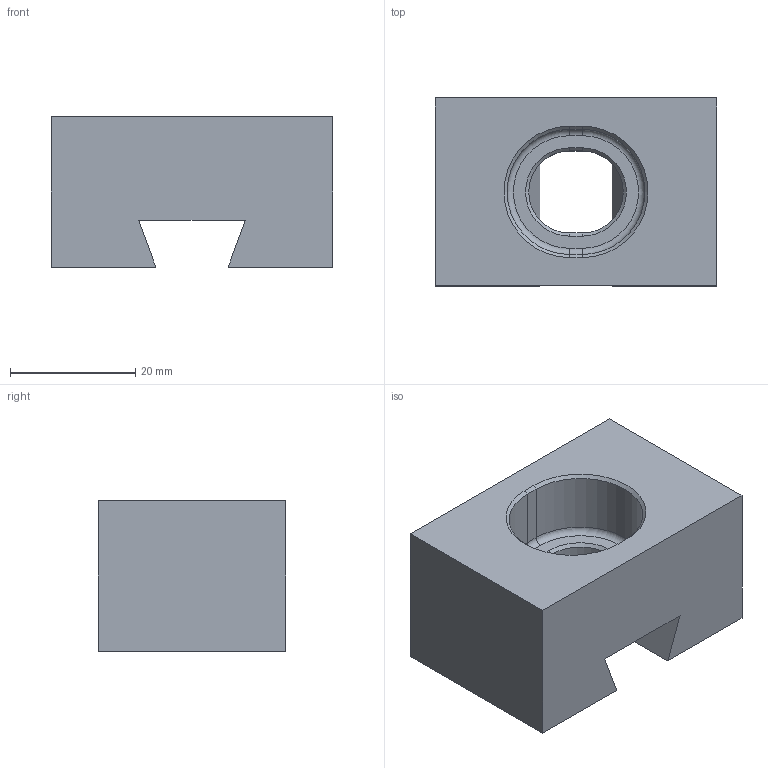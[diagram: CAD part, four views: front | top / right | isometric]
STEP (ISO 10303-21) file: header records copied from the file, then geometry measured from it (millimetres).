
FILE_DESCRIPTION((''),'2;1');
FILE_NAME('FG_WH_WEDCL_00DC2NP001','2026-06-05T10:46:29',('Admin'),(''),'CREO PARAMETRIC BY PTC INC, 2025010','CREO PARAMETRIC BY PTC INC, 2025010','');
FILE_SCHEMA(('CONFIG_CONTROL_DESIGN'));
Length unit declared in the file: metre
Products named in the file (1): FG_WH_WEDCL_00DC2NP001
Bounding box: 45 x 30 x 24 mm (x, y, z)
Volume: 24405.2 mm3; surface area: 7328.7 mm2
Topology: 1 solids, 1 shells, 31 faces, 82 edges, 54 vertices
Faces by surface type: plane 19, cylinder 6, cone 4, torus 2
Entity records: 1010 total; most frequent: DIRECTION 172, CARTESIAN_POINT 167, ORIENTED_EDGE 164, EDGE_CURVE 82, AXIS2_PLACEMENT_3D 59, VECTOR 54, LINE 54, VERTEX_POINT 54
